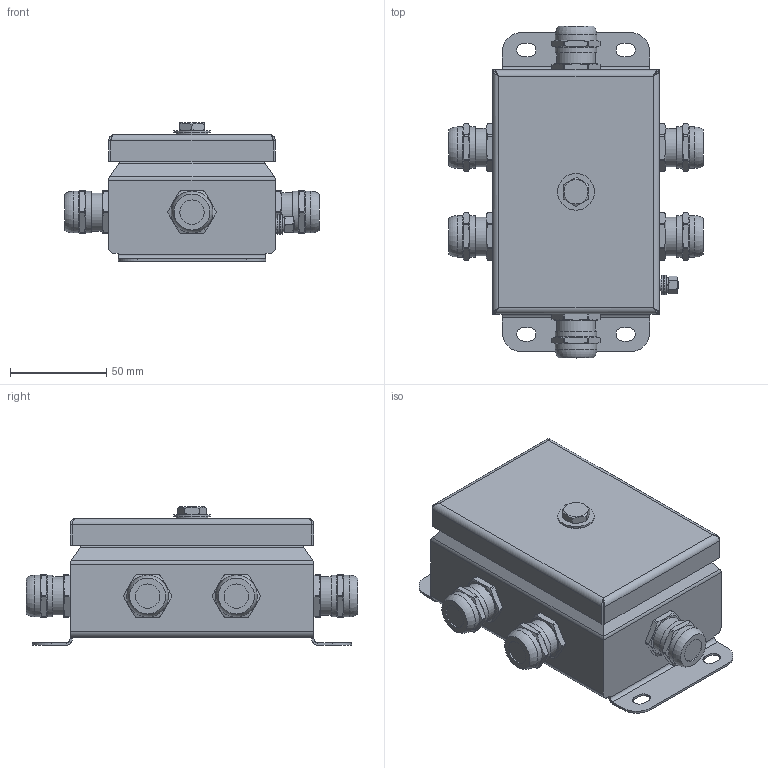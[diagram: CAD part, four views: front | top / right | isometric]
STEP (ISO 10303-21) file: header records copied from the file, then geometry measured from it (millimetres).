
FILE_DESCRIPTION(('STEP AP203'), '1');
FILE_NAME('Êîðîáêà 0812 IP66', '', ('UNSPECIFIED'), ('UNSPECIFIED'), 'ASCON STEP Converter 1.6', 'ASCON Math Kernel', '');
FILE_SCHEMA(('CONFIG_CONTROL_DESIGN'));
Length unit declared in the file: millimetre
Bounding box: 132.17 x 172.17 x 71.7 mm (x, y, z)
Volume: 701637.8 mm3; surface area: 76725.3 mm2
Topology: 1 solids, 1 shells, 437 faces, 1072 edges, 675 vertices
Faces by surface type: plane 205, cylinder 157, cone 59, bspline 8, torus 8
Full cylindrical faces by diameter (mm): 3.7 x1, 5 x2, 5.5 x2, 6.5 x1, 10 x2, 12.6 x6, 17 x1, 19 x1, 20 x6, 21.6 x12
Entity records: 24287 total; most frequent: CARTESIAN_POINT 4538, ORIENTED_EDGE 2026, DIRECTION 1988, PROPERTY_DEFINITION 1416, PROPERTY_DEFINITION_REPRESENTATION 1416, REPRESENTATION 1416, EDGE_CURVE 1013, GENERAL_PROPERTY_ASSOCIATION 822
